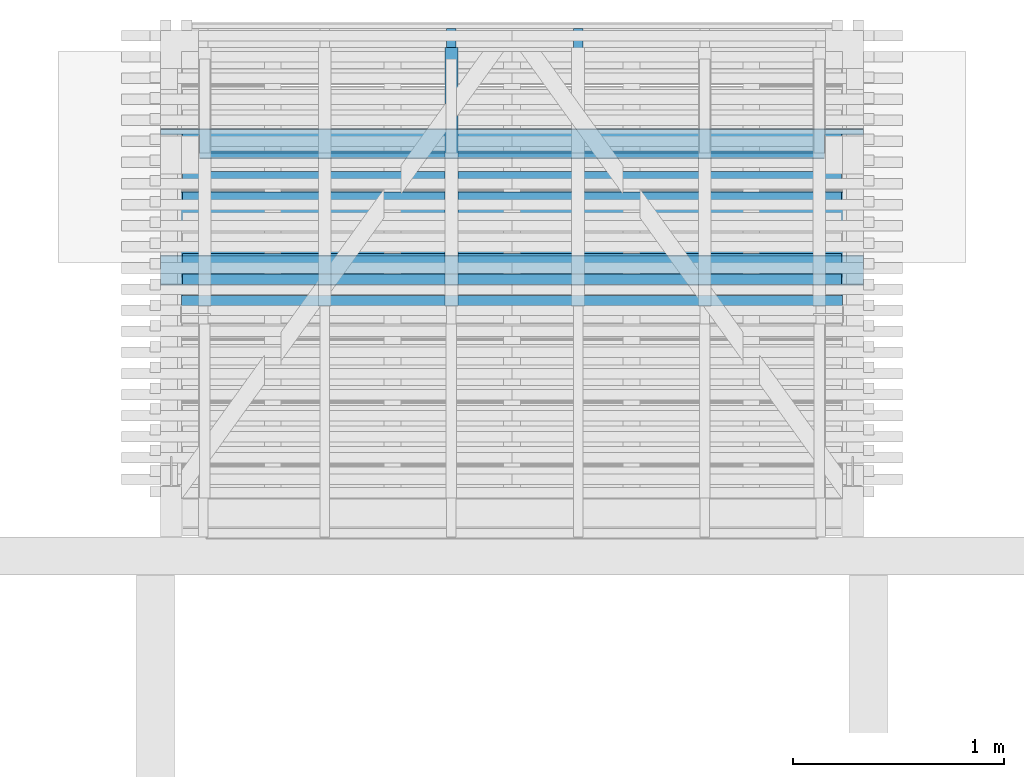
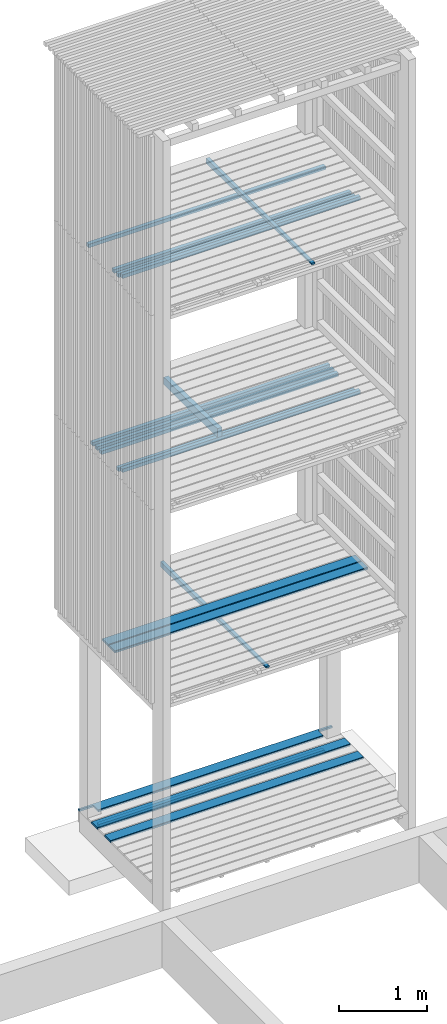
# One storey, part 150 of 182: 18 beams.
"""IFC2X3 building model written with IfcOpenShell, lengths in metres."""

from ifc_helpers import new_model, si_unit, frame, origin, place, context, project, spatial, faceted_brep, element, save


model = new_model("IFC2X3")

# Units and contexts
model_context = context("Model", 3, precision=1e-06, world=origin())
ifc_project = project(units=[si_unit("LENGTHUNIT", "METRE"), si_unit("PLANEANGLEUNIT", "RADIAN")], contexts=[model_context])

# Site, building, storey
site = spatial("IfcSite", under=ifc_project, CompositionType="ELEMENT")
building = spatial("IfcBuilding", under=site, CompositionType="ELEMENT")
storey = spatial("IfcBuildingStorey", under=building, Name="vs", CompositionType="ELEMENT", Elevation=-0.85)

# Beams
placement = place(None, origin())
beam_1_placement = place(placement, frame((36.38499999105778, 11.634577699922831, 2.733499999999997), z_axis=(0.0, 0.0, 1.0), x_axis=(-1.0, -1e-14, 0.0)))
element("IfcBeam", 1, at=beam_1_placement, inside=storey, Name="Caillebotis", context=model_context, shape_type="Brep", body=[
    faceted_brep([(3.329999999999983, -0.072500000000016, -0.0135), (3.329999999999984, 0.072499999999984, -0.0135), (3.329999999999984, 0.072499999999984, 0.0085), (3.329999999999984, 0.067499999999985, 0.0135), (3.329999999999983, -0.067500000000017, 0.0135), (3.329999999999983, -0.072500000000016, 0.008500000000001), (-1.5e-14, -0.072499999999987, 0.008500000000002), (-1.5e-14, -0.067499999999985, 0.0135), (-1.4e-14, 0.067500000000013, 0.0135), (-1.4e-14, 0.072500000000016, 0.0085), (-1.4e-14, 0.072500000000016, -0.0135), (-1.5e-14, -0.072499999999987, -0.0135), (3.329999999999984, 0.072499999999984, 0.0085), (3.329999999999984, 0.072499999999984, -0.0135), (-1.4e-14, 0.072500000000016, -0.0135), (-1.4e-14, 0.072500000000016, 0.0085), (3.329999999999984, 0.067499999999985, 0.0135), (3.329999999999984, 0.072499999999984, 0.0085), (-1.4e-14, 0.072500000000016, 0.0085), (-1.4e-14, 0.067500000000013, 0.0135), (3.329999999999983, -0.067500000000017, 0.0135), (3.329999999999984, 0.067499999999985, 0.0135), (-1.4e-14, 0.067500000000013, 0.0135), (-1.5e-14, -0.067499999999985, 0.0135), (3.329999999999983, -0.072500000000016, 0.008500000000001), (3.329999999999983, -0.067500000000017, 0.0135), (-1.5e-14, -0.067499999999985, 0.0135), (-1.5e-14, -0.072499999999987, 0.008500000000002), (3.329999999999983, -0.072500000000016, -0.0135), (3.329999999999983, -0.072500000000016, 0.008500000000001), (-1.5e-14, -0.072499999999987, 0.008500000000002), (-1.5e-14, -0.072499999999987, -0.0135), (-1.4e-14, 0.072500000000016, -0.0135), (3.329999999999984, 0.072499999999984, -0.0135), (3.329999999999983, -0.072500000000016, -0.0135), (-1.5e-14, -0.072499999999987, -0.0135)], [[[0, 1, 2, 3, 4, 5]], [[6, 7, 8, 9, 10, 11]], [[12, 13, 14, 15]], [[16, 17, 18, 19]], [[20, 21, 22, 23]], [[24, 25, 26, 27]], [[28, 29, 30, 31]], [[32, 33, 34, 35]]]),
])
beam_2_placement = place(placement, frame((34.432999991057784, 11.565077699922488, 5.304249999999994), z_axis=(0.0, 0.0, 1.0), x_axis=(1.2e-14, 1.0, 0.0)))
element("IfcBeam", 2, at=beam_2_placement, inside=storey, Name="Solive", context=model_context, shape_type="Brep", body=[
    faceted_brep([(0.0, -0.030000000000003, -0.061849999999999), (1.225000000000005, -0.029999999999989, -0.061849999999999), (1.225000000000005, -0.029999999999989, 0.03735), (0.0, -0.030000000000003, 0.06185), (-1e-15, 0.029999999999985, -0.061849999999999), (1.225000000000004, 0.029999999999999, -0.061849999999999), (1.225000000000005, -0.029999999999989, -0.061849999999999), (0.0, -0.030000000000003, -0.061849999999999), (-1e-15, 0.029999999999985, 0.061850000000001), (-1e-15, 0.029999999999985, -0.061849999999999), (0.0, -0.030000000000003, -0.061849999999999), (0.0, -0.030000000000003, 0.06185), (1.225000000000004, 0.029999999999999, -0.061849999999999), (-1e-15, 0.029999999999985, -0.061849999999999), (-1e-15, 0.029999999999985, 0.061850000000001), (1.225000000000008, 0.029999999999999, 0.03735), (1.225000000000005, -0.029999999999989, 0.03735), (1.225000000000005, -0.029999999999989, -0.061849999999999), (1.225000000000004, 0.029999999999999, -0.061849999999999), (1.225000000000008, 0.029999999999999, 0.03735), (0.0, -0.030000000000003, 0.06185), (1.225000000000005, -0.029999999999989, 0.03735), (1.225000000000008, 0.029999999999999, 0.03735), (-1e-15, 0.029999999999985, 0.061850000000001)], [[[0, 1, 2, 3]], [[4, 5, 6, 7]], [[8, 9, 10, 11]], [[12, 13, 14, 15]], [[16, 17, 18, 19]], [[20, 21, 22, 23]]]),
])
beam_3_placement = place(placement, frame((36.27999999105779, 11.789244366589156, 7.86739999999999), z_axis=(0.0, 0.0, 1.0), x_axis=(-1.0, 0.0, 0.0)))
element("IfcBeam", 3, at=beam_3_placement, inside=storey, Name="Bardage", context=model_context, shape_type="Brep", body=[
    faceted_brep([(3.120000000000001, 0.025000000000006, -0.024999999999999), (3.120000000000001, 0.025000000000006, 0.025000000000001), (3.120000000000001, -0.024999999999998, 0.025000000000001), (3.120000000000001, -0.024999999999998, -0.024999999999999), (-3e-15, -0.024999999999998, -0.024999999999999), (-3e-15, -0.024999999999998, 0.025000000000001), (-3e-15, 0.025000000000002, 0.025000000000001), (-3e-15, 0.025000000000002, -0.024999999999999), (-3e-15, 0.025000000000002, -0.024999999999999), (-3e-15, 0.025000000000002, 0.025000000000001), (3.120000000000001, 0.025000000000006, 0.025000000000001), (3.120000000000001, 0.025000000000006, -0.024999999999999), (-3e-15, 0.025000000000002, 0.025000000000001), (-3e-15, -0.024999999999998, 0.025000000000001), (3.120000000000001, -0.024999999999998, 0.025000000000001), (3.120000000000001, 0.025000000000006, 0.025000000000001), (-3e-15, -0.024999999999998, 0.025000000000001), (-3e-15, -0.024999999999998, -0.024999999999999), (3.120000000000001, -0.024999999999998, -0.024999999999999), (3.120000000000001, -0.024999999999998, 0.025000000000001), (-3e-15, -0.024999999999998, -0.024999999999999), (-3e-15, 0.025000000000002, -0.024999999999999), (3.120000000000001, 0.025000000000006, -0.024999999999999), (3.120000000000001, -0.024999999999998, -0.024999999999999)], [[[0, 1, 2, 3]], [[4, 5, 6, 7]], [[8, 9, 10, 11]], [[12, 13, 14, 15]], [[16, 17, 18, 19]], [[20, 21, 22, 23]]]),
])
beam_4_placement = place(placement, frame((36.38499999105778, 12.334577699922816, 0.033500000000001), z_axis=(0.0, 0.0, 1.0), x_axis=(-1.0, 0.0, 0.0)))
element("IfcBeam", 4, at=beam_4_placement, inside=storey, Name="Caillebotis", context=model_context, shape_type="Brep", body=[
    faceted_brep([(0.0, -0.072500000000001, -0.013500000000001), (0.0, -0.072500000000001, 0.008500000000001), (0.0, -0.067500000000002, 0.0135), (0.0, -0.040499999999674, 0.0135), (0.0, -0.040499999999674, -0.013500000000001), (3.329999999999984, -0.067500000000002, 0.0135), (3.329999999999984, -0.040499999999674, 0.0135), (3.144999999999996, -0.040499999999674, 0.0135), (3.144999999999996, 0.067500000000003, 0.0135), (0.184999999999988, 0.067499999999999, 0.0135), (0.184999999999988, -0.040499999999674, 0.0135), (0.0, -0.040499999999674, 0.0135), (0.0, -0.067500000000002, 0.0135), (0.184999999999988, -0.040499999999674, 0.0135), (0.184999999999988, 0.067499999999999, 0.0135), (0.184999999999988, 0.072499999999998, 0.0085), (0.184999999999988, 0.072499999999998, -0.013500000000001), (0.184999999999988, -0.040499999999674, -0.013500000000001), (3.329999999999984, -0.072499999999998, 0.008500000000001), (3.329999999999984, -0.072499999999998, -0.013500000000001), (3.329999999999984, -0.040499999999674, -0.013500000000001), (3.329999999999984, -0.040499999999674, 0.0135), (3.329999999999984, -0.067500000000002, 0.0135), (3.144999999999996, 0.072499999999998, 0.0085), (3.144999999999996, 0.067500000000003, 0.0135), (3.144999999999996, -0.040499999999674, 0.0135), (3.144999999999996, -0.040499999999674, -0.013500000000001), (3.144999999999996, 0.072500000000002, -0.013500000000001), (3.144999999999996, -0.040499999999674, -0.013500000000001), (3.144999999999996, -0.040499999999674, 0.0135), (3.329999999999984, -0.040499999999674, 0.0135), (3.329999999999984, -0.040499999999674, -0.013500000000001), (0.184999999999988, 0.072499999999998, -0.013500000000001), (0.184999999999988, 0.072499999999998, 0.0085), (3.144999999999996, 0.072499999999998, 0.0085), (3.144999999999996, 0.072500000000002, -0.013500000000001), (0.184999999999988, 0.072499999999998, 0.0085), (0.184999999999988, 0.067499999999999, 0.0135), (3.144999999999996, 0.067500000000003, 0.0135), (3.144999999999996, 0.072499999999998, 0.0085), (3.329999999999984, -0.072499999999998, 0.008500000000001), (3.329999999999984, -0.067500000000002, 0.0135), (0.0, -0.067500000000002, 0.0135), (0.0, -0.072500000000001, 0.008500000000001), (3.329999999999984, -0.072499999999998, -0.013500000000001), (3.329999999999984, -0.072499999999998, 0.008500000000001), (0.0, -0.072500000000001, 0.008500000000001), (0.0, -0.072500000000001, -0.013500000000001), (0.184999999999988, -0.040499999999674, -0.013500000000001), (0.184999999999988, 0.072499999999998, -0.013500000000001), (3.144999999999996, 0.072500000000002, -0.013500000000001), (3.144999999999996, -0.040499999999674, -0.013500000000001), (3.329999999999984, -0.040499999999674, -0.013500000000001), (3.329999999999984, -0.072499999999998, -0.013500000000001), (0.0, -0.072500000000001, -0.013500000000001), (0.0, -0.040499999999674, -0.013500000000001), (0.0, -0.040499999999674, 0.0135), (0.184999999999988, -0.040499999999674, 0.0135), (0.184999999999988, -0.040499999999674, -0.013500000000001), (0.0, -0.040499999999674, -0.013500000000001)], [[[0, 1, 2, 3, 4]], [[5, 6, 7, 8, 9, 10, 11, 12]], [[13, 14, 15, 16, 17]], [[18, 19, 20, 21, 22]], [[23, 24, 25, 26, 27]], [[28, 29, 30, 31]], [[32, 33, 34, 35]], [[36, 37, 38, 39]], [[40, 41, 42, 43]], [[44, 45, 46, 47]], [[48, 49, 50, 51, 52, 53, 54, 55]], [[56, 57, 58, 59]]]),
])
beam_5_placement = place(placement, frame((36.27999999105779, 11.69216103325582, 7.86739999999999), z_axis=(0.0, 0.0, 1.0), x_axis=(-1.0, 0.0, 0.0)))
element("IfcBeam", 5, at=beam_5_placement, inside=storey, Name="Bardage", context=model_context, shape_type="Brep", body=[
    faceted_brep([(3.120000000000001, 0.024999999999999, -0.024999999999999), (3.120000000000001, 0.024999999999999, 0.025000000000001), (3.120000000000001, -0.024999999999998, 0.025000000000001), (3.120000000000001, -0.024999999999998, -0.024999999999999), (-3e-15, -0.025000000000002, -0.024999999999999), (-3e-15, -0.025000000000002, 0.025000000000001), (-3e-15, 0.024999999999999, 0.025000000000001), (-3e-15, 0.024999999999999, -0.024999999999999), (-3e-15, 0.024999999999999, -0.024999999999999), (-3e-15, 0.024999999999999, 0.025000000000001), (3.120000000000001, 0.024999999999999, 0.025000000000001), (3.120000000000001, 0.024999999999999, -0.024999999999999), (-3e-15, 0.024999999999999, 0.025000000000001), (-3e-15, -0.025000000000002, 0.025000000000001), (3.120000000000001, -0.024999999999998, 0.025000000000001), (3.120000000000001, 0.024999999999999, 0.025000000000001), (-3e-15, -0.025000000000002, 0.025000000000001), (-3e-15, -0.025000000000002, -0.024999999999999), (3.120000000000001, -0.024999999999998, -0.024999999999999), (3.120000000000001, -0.024999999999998, 0.025000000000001), (-3e-15, -0.025000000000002, -0.024999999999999), (-3e-15, 0.024999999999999, -0.024999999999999), (3.120000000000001, 0.024999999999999, -0.024999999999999), (3.120000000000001, -0.024999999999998, -0.024999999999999)], [[[0, 1, 2, 3]], [[4, 5, 6, 7]], [[8, 9, 10, 11]], [[12, 13, 14, 15]], [[16, 17, 18, 19]], [[20, 21, 22, 23]]]),
])
beam_6_placement = place(placement, frame((36.38499999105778, 12.034577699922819, 0.033500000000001), z_axis=(0.0, 0.0, 1.0), x_axis=(-1.0, -1e-15, 0.0)))
element("IfcBeam", 6, at=beam_6_placement, inside=storey, Name="Caillebotis", context=model_context, shape_type="Brep", body=[
    faceted_brep([(3.329999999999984, -0.067499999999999, 0.0135), (3.329999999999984, -0.072500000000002, 0.008500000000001), (3.329999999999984, -0.072500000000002, -0.013500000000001), (3.329999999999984, 0.072500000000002, -0.013500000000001), (3.329999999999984, 0.072500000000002, 0.0085), (3.329999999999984, 0.067499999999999, 0.0135), (0.0, 0.067500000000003, 0.0135), (0.0, 0.072500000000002, 0.0085), (0.0, 0.072500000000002, -0.013500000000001), (0.0, -0.072499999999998, -0.013500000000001), (0.0, -0.072499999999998, 0.008500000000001), (0.0, -0.067499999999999, 0.0135), (3.329999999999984, -0.072500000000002, -0.013500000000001), (3.329999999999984, -0.072500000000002, 0.008500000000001), (0.0, -0.072499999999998, 0.008500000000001), (0.0, -0.072499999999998, -0.013500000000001), (3.329999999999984, 0.072500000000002, -0.013500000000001), (3.329999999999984, -0.072500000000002, -0.013500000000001), (0.0, -0.072499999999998, -0.013500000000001), (0.0, 0.072500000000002, -0.013500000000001), (3.329999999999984, 0.072500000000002, 0.0085), (3.329999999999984, 0.072500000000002, -0.013500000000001), (0.0, 0.072500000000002, -0.013500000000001), (0.0, 0.072500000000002, 0.0085), (3.329999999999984, 0.067499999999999, 0.0135), (3.329999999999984, 0.072500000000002, 0.0085), (0.0, 0.072500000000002, 0.0085), (0.0, 0.067500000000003, 0.0135), (3.329999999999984, -0.067499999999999, 0.0135), (3.329999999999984, 0.067499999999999, 0.0135), (0.0, 0.067500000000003, 0.0135), (0.0, -0.067499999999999, 0.0135), (0.0, -0.072499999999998, 0.008500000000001), (3.329999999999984, -0.072500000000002, 0.008500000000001), (3.329999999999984, -0.067499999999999, 0.0135), (0.0, -0.067499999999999, 0.0135)], [[[0, 1, 2, 3, 4, 5]], [[6, 7, 8, 9, 10, 11]], [[12, 13, 14, 15]], [[16, 17, 18, 19]], [[20, 21, 22, 23]], [[24, 25, 26, 27]], [[28, 29, 30, 31]], [[32, 33, 34, 35]]]),
])
beam_7_placement = place(placement, frame((33.154999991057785, 11.590077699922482, 5.217399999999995), z_axis=(0.0, 0.0, 1.0), x_axis=(1.0, 0.0, 0.0)))
element("IfcBeam", 7, at=beam_7_placement, inside=storey, Name="Ligneul", context=model_context, shape_type="Brep", body=[
    faceted_brep([(4e-15, -0.024999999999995, 0.024999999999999), (4e-15, -0.024999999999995, -0.025), (3.129999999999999, -0.024999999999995, -0.025), (3.129999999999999, -0.024999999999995, 0.024999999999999), (4e-15, 0.025000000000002, 0.024999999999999), (4e-15, -0.024999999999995, 0.024999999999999), (3.129999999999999, -0.024999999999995, 0.024999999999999), (3.129999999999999, 0.025000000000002, 0.024999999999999), (4e-15, -0.024999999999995, 0.024999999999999), (4e-15, 0.025000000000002, 0.024999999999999), (4e-15, 0.025000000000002, -0.025), (4e-15, -0.024999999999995, -0.025), (4e-15, 0.025000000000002, -0.025), (4e-15, 0.025000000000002, 0.024999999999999), (3.129999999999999, 0.025000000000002, 0.024999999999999), (3.129999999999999, 0.025000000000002, -0.025), (3.129999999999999, -0.024999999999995, -0.025), (4e-15, -0.024999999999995, -0.025), (4e-15, 0.025000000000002, -0.025), (3.129999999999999, 0.025000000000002, -0.025), (3.129999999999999, -0.024999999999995, 0.024999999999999), (3.129999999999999, -0.024999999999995, -0.025), (3.129999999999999, 0.025000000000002, -0.025), (3.129999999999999, 0.025000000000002, 0.024999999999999)], [[[0, 1, 2, 3]], [[4, 5, 6, 7]], [[8, 9, 10, 11]], [[12, 13, 14, 15]], [[16, 17, 18, 19]], [[20, 21, 22, 23]]]),
])
beam_8_placement = place(placement, frame((36.38499999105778, 11.78457769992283, 2.733499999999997), z_axis=(0.0, 0.0, 1.0), x_axis=(-1.0, -8e-15, 0.0)))
element("IfcBeam", 8, at=beam_8_placement, inside=storey, Name="Caillebotis", context=model_context, shape_type="Brep", body=[
    faceted_brep([(3.329999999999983, -0.072500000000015, -0.0135), (3.329999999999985, 0.072499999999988, -0.0135), (3.329999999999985, 0.072499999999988, 0.0085), (3.329999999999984, 0.067499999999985, 0.0135), (3.329999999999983, -0.067500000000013, 0.0135), (3.329999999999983, -0.072500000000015, 0.008500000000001), (-1.5e-14, -0.072499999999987, 0.008500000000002), (-1.5e-14, -0.067499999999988, 0.0135), (-1.4e-14, 0.067500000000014, 0.013500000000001), (-1.4e-14, 0.072500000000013, 0.0085), (-1.4e-14, 0.072500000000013, -0.0135), (-1.5e-14, -0.072499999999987, -0.0135), (3.329999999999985, 0.072499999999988, 0.0085), (3.329999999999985, 0.072499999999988, -0.0135), (-1.4e-14, 0.072500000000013, -0.0135), (-1.4e-14, 0.072500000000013, 0.0085), (3.329999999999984, 0.067499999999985, 0.0135), (3.329999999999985, 0.072499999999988, 0.0085), (-1.4e-14, 0.072500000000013, 0.0085), (-1.4e-14, 0.067500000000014, 0.013500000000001), (3.329999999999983, -0.067500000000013, 0.0135), (3.329999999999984, 0.067499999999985, 0.0135), (-1.4e-14, 0.067500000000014, 0.013500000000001), (-1.5e-14, -0.067499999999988, 0.0135), (3.329999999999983, -0.072500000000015, 0.008500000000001), (3.329999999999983, -0.067500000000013, 0.0135), (-1.5e-14, -0.067499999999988, 0.0135), (-1.5e-14, -0.072499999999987, 0.008500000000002), (3.329999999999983, -0.072500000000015, -0.0135), (3.329999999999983, -0.072500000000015, 0.008500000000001), (-1.5e-14, -0.072499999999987, 0.008500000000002), (-1.5e-14, -0.072499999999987, -0.0135), (-1.4e-14, 0.072500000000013, -0.0135), (3.329999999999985, 0.072499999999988, -0.0135), (3.329999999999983, -0.072500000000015, -0.0135), (-1.5e-14, -0.072499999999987, -0.0135)], [[[0, 1, 2, 3, 4, 5]], [[6, 7, 8, 9, 10, 11]], [[12, 13, 14, 15]], [[16, 17, 18, 19]], [[20, 21, 22, 23]], [[24, 25, 26, 27]], [[28, 29, 30, 31]], [[32, 33, 34, 35]]]),
])
beam_9_placement = place(placement, frame((36.27999999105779, 12.274661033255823, 5.167399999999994), z_axis=(0.0, 0.0, 1.0), x_axis=(-1.0, 0.0, 0.0)))
element("IfcBeam", 9, at=beam_9_placement, inside=storey, Name="Bardage", context=model_context, shape_type="Brep", body=[
    faceted_brep([(3.120000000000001, 0.024999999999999, 0.024999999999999), (3.120000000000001, -0.024999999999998, 0.024999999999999), (3.120000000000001, -0.024999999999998, -0.024999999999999), (3.120000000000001, 0.024999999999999, -0.024999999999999), (-3e-15, -0.025000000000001, 0.024999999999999), (-3e-15, 0.024999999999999, 0.024999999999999), (-3e-15, 0.024999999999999, -0.024999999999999), (-3e-15, -0.025000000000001, -0.024999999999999), (3.120000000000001, 0.024999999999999, -0.024999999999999), (3.120000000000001, -0.024999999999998, -0.024999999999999), (-3e-15, -0.025000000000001, -0.024999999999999), (-3e-15, 0.024999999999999, -0.024999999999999), (-3e-15, -0.025000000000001, -0.024999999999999), (3.120000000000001, -0.024999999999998, -0.024999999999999), (3.120000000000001, -0.024999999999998, 0.024999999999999), (-3e-15, -0.025000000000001, 0.024999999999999), (-3e-15, -0.025000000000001, 0.024999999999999), (3.120000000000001, -0.024999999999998, 0.024999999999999), (3.120000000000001, 0.024999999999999, 0.024999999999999), (-3e-15, 0.024999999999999, 0.024999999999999), (-3e-15, 0.024999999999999, 0.024999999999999), (3.120000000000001, 0.024999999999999, 0.024999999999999), (3.120000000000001, 0.024999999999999, -0.024999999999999), (-3e-15, 0.024999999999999, -0.024999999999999)], [[[0, 1, 2, 3]], [[4, 5, 6, 7]], [[8, 9, 10, 11]], [[12, 13, 14, 15]], [[16, 17, 18, 19]], [[20, 21, 22, 23]]]),
])
beam_10_placement = place(placement, frame((33.23499999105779, 12.26507769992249, -0.164999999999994), z_axis=(0.0, 0.0, 1.0), x_axis=(1.0, 0.0, 0.0)))
element("IfcBeam", 10, at=beam_10_placement, inside=storey, Name="Ligneul", context=model_context, shape_type="Brep", body=[
    faceted_brep([(2e-15, -0.024999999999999, 0.025), (2e-15, -0.024999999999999, -0.025), (2.970000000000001, -0.024999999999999, -0.025), (2.970000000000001, -0.024999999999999, 0.025), (2e-15, 0.024999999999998, 0.025), (2e-15, -0.024999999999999, 0.025), (2.970000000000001, -0.024999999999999, 0.025), (2.970000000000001, 0.025000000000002, 0.025), (2e-15, -0.024999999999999, 0.025), (2e-15, 0.024999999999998, 0.025), (2e-15, 0.024999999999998, -0.025), (2e-15, -0.024999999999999, -0.025), (2e-15, 0.024999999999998, -0.025), (2e-15, 0.024999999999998, 0.025), (2.970000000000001, 0.025000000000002, 0.025), (2.970000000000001, 0.025000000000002, -0.025), (2.970000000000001, -0.024999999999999, -0.025), (2e-15, -0.024999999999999, -0.025), (2e-15, 0.024999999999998, -0.025), (2.970000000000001, 0.025000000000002, -0.025), (2.970000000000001, -0.024999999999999, 0.025), (2.970000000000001, -0.024999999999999, -0.025), (2.970000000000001, 0.025000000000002, -0.025), (2.970000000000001, 0.025000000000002, 0.025)], [[[0, 1, 2, 3]], [[4, 5, 6, 7]], [[8, 9, 10, 11]], [[12, 13, 14, 15]], [[16, 17, 18, 19]], [[20, 21, 22, 23]]]),
])
beam_11_placement = place(placement, frame((36.27999999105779, 12.177577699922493, 5.167399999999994), z_axis=(0.0, 0.0, 1.0), x_axis=(-1.0, -1e-15, 0.0)))
element("IfcBeam", 11, at=beam_11_placement, inside=storey, Name="Bardage", context=model_context, shape_type="Brep", body=[
    faceted_brep([(3.120000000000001, 0.024999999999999, 0.024999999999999), (3.120000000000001, -0.025000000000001, 0.024999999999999), (3.120000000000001, -0.025000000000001, -0.024999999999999), (3.120000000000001, 0.024999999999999, -0.024999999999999), (-3e-15, -0.024999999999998, 0.024999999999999), (-3e-15, 0.025000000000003, 0.024999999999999), (-3e-15, 0.025000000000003, -0.024999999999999), (-3e-15, -0.024999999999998, -0.024999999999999), (-3e-15, -0.024999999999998, -0.024999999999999), (-3e-15, 0.025000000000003, -0.024999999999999), (3.120000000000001, 0.024999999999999, -0.024999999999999), (3.120000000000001, -0.025000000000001, -0.024999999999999), (-3e-15, -0.024999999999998, -0.024999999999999), (3.120000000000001, -0.025000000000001, -0.024999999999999), (3.120000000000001, -0.025000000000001, 0.024999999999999), (-3e-15, -0.024999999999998, 0.024999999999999), (3.120000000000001, 0.024999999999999, 0.024999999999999), (3.120000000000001, 0.024999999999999, -0.024999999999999), (-3e-15, 0.025000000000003, -0.024999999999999), (-3e-15, 0.025000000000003, 0.024999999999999), (3.120000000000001, 0.024999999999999, 0.024999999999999), (-3e-15, 0.025000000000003, 0.024999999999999), (-3e-15, -0.024999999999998, 0.024999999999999), (3.120000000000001, -0.025000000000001, 0.024999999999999)], [[[0, 1, 2, 3]], [[4, 5, 6, 7]], [[8, 9, 10, 11]], [[12, 13, 14, 15]], [[16, 17, 18, 19]], [[20, 21, 22, 23]]]),
])
beam_12_placement = place(placement, frame((36.27999999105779, 12.371744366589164, 7.86739999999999), z_axis=(0.0, 0.0, 1.0), x_axis=(-1.0, 0.0, 0.0)))
element("IfcBeam", 12, at=beam_12_placement, inside=storey, Name="Bardage", context=model_context, shape_type="Brep", body=[
    faceted_brep([(-3e-15, -0.024999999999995, 0.025000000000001), (-3e-15, 0.025000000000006, 0.025000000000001), (-3e-15, 0.025000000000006, -0.024999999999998), (-3e-15, -0.024999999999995, -0.024999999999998), (3.119999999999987, 0.025000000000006, 0.025000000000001), (3.120000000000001, -0.024999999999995, 0.025000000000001), (3.120000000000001, -0.024999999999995, -0.024999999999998), (3.119999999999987, 0.025000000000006, -0.024999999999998), (3.120000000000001, -0.024999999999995, 0.025000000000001), (3.119999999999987, 0.025000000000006, 0.025000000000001), (-3e-15, 0.025000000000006, 0.025000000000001), (-3e-15, -0.024999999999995, 0.025000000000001), (-3e-15, 0.025000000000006, 0.025000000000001), (3.119999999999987, 0.025000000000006, 0.025000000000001), (3.119999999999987, 0.025000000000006, -0.024999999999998), (-3e-15, 0.025000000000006, -0.024999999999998), (-3e-15, -0.024999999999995, -0.024999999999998), (-3e-15, 0.025000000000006, -0.024999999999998), (3.119999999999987, 0.025000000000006, -0.024999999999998), (3.120000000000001, -0.024999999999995, -0.024999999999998), (3.120000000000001, -0.024999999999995, -0.024999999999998), (3.120000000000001, -0.024999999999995, 0.025000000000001), (-3e-15, -0.024999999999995, 0.025000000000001), (-3e-15, -0.024999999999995, -0.024999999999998)], [[[0, 1, 2, 3]], [[4, 5, 6, 7]], [[8, 9, 10, 11]], [[12, 13, 14, 15]], [[16, 17, 18, 19]], [[20, 21, 22, 23]]]),
])
beam_13_placement = place(placement, frame((36.27999999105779, 11.69216103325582, 5.167399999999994), z_axis=(0.0, 0.0, 1.0), x_axis=(-1.0, 0.0, 0.0)))
element("IfcBeam", 13, at=beam_13_placement, inside=storey, Name="Bardage", context=model_context, shape_type="Brep", body=[
    faceted_brep([(3.120000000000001, 0.024999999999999, -0.025), (3.120000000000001, 0.024999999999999, 0.025), (3.120000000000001, -0.024999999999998, 0.025), (3.120000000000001, -0.024999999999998, -0.025), (-3e-15, -0.025000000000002, -0.025), (-3e-15, -0.025000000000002, 0.025), (-3e-15, 0.024999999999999, 0.025), (-3e-15, 0.024999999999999, -0.025), (-3e-15, 0.024999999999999, -0.025), (-3e-15, 0.024999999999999, 0.025), (3.120000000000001, 0.024999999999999, 0.025), (3.120000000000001, 0.024999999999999, -0.025), (-3e-15, 0.024999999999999, 0.025), (-3e-15, -0.025000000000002, 0.025), (3.120000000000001, -0.024999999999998, 0.025), (3.120000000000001, 0.024999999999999, 0.025), (-3e-15, -0.025000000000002, 0.025), (-3e-15, -0.025000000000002, -0.025), (3.120000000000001, -0.024999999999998, -0.025), (3.120000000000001, -0.024999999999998, 0.025), (-3e-15, -0.025000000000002, -0.025), (-3e-15, 0.024999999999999, -0.025), (3.120000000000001, 0.024999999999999, -0.025), (3.120000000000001, -0.024999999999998, -0.025)], [[[0, 1, 2, 3]], [[4, 5, 6, 7]], [[8, 9, 10, 11]], [[12, 13, 14, 15]], [[16, 17, 18, 19]], [[20, 21, 22, 23]]]),
])
beam_14_placement = place(placement, frame((33.154999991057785, 11.590077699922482, 7.917399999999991), z_axis=(0.0, 0.0, 1.0), x_axis=(1.0, 0.0, 0.0)))
element("IfcBeam", 14, at=beam_14_placement, inside=storey, Name="Ligneul", context=model_context, shape_type="Brep", body=[
    faceted_brep([(4e-15, -0.024999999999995, 0.024999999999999), (4e-15, -0.024999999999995, -0.025000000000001), (3.129999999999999, -0.024999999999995, -0.025000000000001), (3.129999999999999, -0.024999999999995, 0.024999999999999), (4e-15, 0.025000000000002, 0.024999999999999), (4e-15, -0.024999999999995, 0.024999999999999), (3.129999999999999, -0.024999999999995, 0.024999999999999), (3.129999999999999, 0.025000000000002, 0.024999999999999), (4e-15, -0.024999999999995, 0.024999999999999), (4e-15, 0.025000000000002, 0.024999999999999), (4e-15, 0.025000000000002, -0.025000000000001), (4e-15, -0.024999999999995, -0.025000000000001), (4e-15, 0.025000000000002, -0.025000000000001), (4e-15, 0.025000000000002, 0.024999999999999), (3.129999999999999, 0.025000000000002, 0.024999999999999), (3.129999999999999, 0.025000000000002, -0.025000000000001), (3.129999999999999, -0.024999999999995, -0.025000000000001), (4e-15, -0.024999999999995, -0.025000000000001), (4e-15, 0.025000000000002, -0.025000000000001), (3.129999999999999, 0.025000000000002, -0.025000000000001), (3.129999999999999, -0.024999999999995, 0.024999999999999), (3.129999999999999, -0.024999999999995, -0.025000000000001), (3.129999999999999, 0.025000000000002, -0.025000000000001), (3.129999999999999, 0.025000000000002, 0.024999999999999)], [[[0, 1, 2, 3]], [[4, 5, 6, 7]], [[8, 9, 10, 11]], [[12, 13, 14, 15]], [[16, 17, 18, 19]], [[20, 21, 22, 23]]]),
])
beam_15_placement = place(placement, frame((35.03299999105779, 10.470077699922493, 8.084400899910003), z_axis=(0.0, 0.0, 1.0), x_axis=(0.0, 1.0, 0.0)))
element("IfcBeam", 15, at=beam_15_placement, inside=storey, Name="Calage", context=model_context, shape_type="Brep", body=[
    faceted_brep([(2.410000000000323, -0.022499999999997, -0.035599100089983), (0.0, -0.022499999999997, 0.012600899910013), (0.0, 0.02249999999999, 0.012600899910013), (2.410000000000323, 0.02249999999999, -0.035599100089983), (0.0, 0.02249999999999, 0.035599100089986), (0.0, 0.02249999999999, 0.012600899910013), (0.0, -0.022499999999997, 0.012600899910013), (0.0, -0.022499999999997, 0.035599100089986), (2.410000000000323, 0.02249999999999, -0.035599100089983), (0.0, 0.02249999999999, 0.012600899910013), (0.0, 0.02249999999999, 0.035599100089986), (2.410000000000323, 0.02249999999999, 0.035599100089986), (2.410000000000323, -0.022499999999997, 0.035599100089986), (0.0, -0.022499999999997, 0.035599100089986), (0.0, -0.022499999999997, 0.012600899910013), (2.410000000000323, -0.022499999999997, -0.035599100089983), (2.410000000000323, 0.02249999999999, 0.035599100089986), (0.0, 0.02249999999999, 0.035599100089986), (0.0, -0.022499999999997, 0.035599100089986), (2.410000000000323, -0.022499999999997, 0.035599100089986), (2.410000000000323, 0.02249999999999, -0.035599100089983), (2.410000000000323, 0.02249999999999, 0.035599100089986), (2.410000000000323, -0.022499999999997, 0.035599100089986), (2.410000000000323, -0.022499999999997, -0.035599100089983)], [[[0, 1, 2, 3]], [[4, 5, 6, 7]], [[8, 9, 10, 11]], [[12, 13, 14, 15]], [[16, 17, 18, 19]], [[20, 21, 22, 23]]]),
])
beam_16_placement = place(placement, frame((36.38499999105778, 11.734577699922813, 0.033500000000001), z_axis=(0.0, 0.0, 1.0), x_axis=(-1.0, 0.0, 0.0)))
element("IfcBeam", 16, at=beam_16_placement, inside=storey, Name="Caillebotis", context=model_context, shape_type="Brep", body=[
    faceted_brep([(3.329999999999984, -0.067500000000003, 0.0135), (3.329999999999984, -0.072499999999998, 0.008500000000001), (3.329999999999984, -0.072499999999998, -0.013500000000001), (3.329999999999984, 0.072499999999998, -0.013500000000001), (3.329999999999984, 0.072499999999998, 0.0085), (3.329999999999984, 0.067500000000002, 0.0135), (0.0, 0.067499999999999, 0.0135), (0.0, 0.072499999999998, 0.0085), (0.0, 0.072499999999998, -0.013500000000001), (0.0, -0.072500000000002, -0.013500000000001), (0.0, -0.072500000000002, 0.008500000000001), (0.0, -0.067500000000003, 0.0135), (3.329999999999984, -0.072499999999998, -0.013500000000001), (3.329999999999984, -0.072499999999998, 0.008500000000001), (0.0, -0.072500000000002, 0.008500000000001), (0.0, -0.072500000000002, -0.013500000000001), (3.329999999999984, 0.072499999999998, -0.013500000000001), (3.329999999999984, -0.072499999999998, -0.013500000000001), (0.0, -0.072500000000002, -0.013500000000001), (0.0, 0.072499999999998, -0.013500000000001), (3.329999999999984, 0.072499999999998, 0.0085), (3.329999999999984, 0.072499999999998, -0.013500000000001), (0.0, 0.072499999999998, -0.013500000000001), (0.0, 0.072499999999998, 0.0085), (3.329999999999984, 0.067500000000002, 0.0135), (3.329999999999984, 0.072499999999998, 0.0085), (0.0, 0.072499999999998, 0.0085), (0.0, 0.067499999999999, 0.0135), (3.329999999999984, -0.067500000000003, 0.0135), (3.329999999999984, 0.067500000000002, 0.0135), (0.0, 0.067499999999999, 0.0135), (0.0, -0.067500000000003, 0.0135), (0.0, -0.072500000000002, 0.008500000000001), (3.329999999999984, -0.072499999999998, 0.008500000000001), (3.329999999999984, -0.067500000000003, 0.0135), (0.0, -0.067500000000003, 0.0135)], [[[0, 1, 2, 3, 4, 5]], [[6, 7, 8, 9, 10, 11]], [[12, 13, 14, 15]], [[16, 17, 18, 19]], [[20, 21, 22, 23]], [[24, 25, 26, 27]], [[28, 29, 30, 31]], [[32, 33, 34, 35]]]),
])
beam_17_placement = place(placement, frame((36.27999999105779, 12.080494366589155, 5.167399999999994), z_axis=(0.0, 0.0, 1.0), x_axis=(-1.0, 0.0, 0.0)))
element("IfcBeam", 17, at=beam_17_placement, inside=storey, Name="Bardage", context=model_context, shape_type="Brep", body=[
    faceted_brep([(3.120000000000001, 0.024999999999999, -0.024999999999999), (3.120000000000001, 0.024999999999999, 0.024999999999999), (3.120000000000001, -0.024999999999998, 0.024999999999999), (3.120000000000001, -0.024999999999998, -0.024999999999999), (-3e-15, -0.025000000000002, -0.024999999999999), (-3e-15, -0.025000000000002, 0.024999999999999), (-3e-15, 0.024999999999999, 0.024999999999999), (-3e-15, 0.024999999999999, -0.024999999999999), (-3e-15, 0.024999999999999, -0.024999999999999), (-3e-15, 0.024999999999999, 0.024999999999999), (3.120000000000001, 0.024999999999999, 0.024999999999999), (3.120000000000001, 0.024999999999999, -0.024999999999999), (-3e-15, 0.024999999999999, 0.024999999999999), (-3e-15, -0.025000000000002, 0.024999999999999), (3.120000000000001, -0.024999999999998, 0.024999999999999), (3.120000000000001, 0.024999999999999, 0.024999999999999), (-3e-15, -0.025000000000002, 0.024999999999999), (-3e-15, -0.025000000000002, -0.024999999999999), (3.120000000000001, -0.024999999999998, -0.024999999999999), (3.120000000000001, -0.024999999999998, 0.024999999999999), (-3e-15, -0.025000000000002, -0.024999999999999), (-3e-15, 0.024999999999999, -0.024999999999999), (3.120000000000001, 0.024999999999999, -0.024999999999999), (3.120000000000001, -0.024999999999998, -0.024999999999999)], [[[0, 1, 2, 3]], [[4, 5, 6, 7]], [[8, 9, 10, 11]], [[12, 13, 14, 15]], [[16, 17, 18, 19]], [[20, 21, 22, 23]]]),
])
beam_18_placement = place(placement, frame((34.4329999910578, 10.470077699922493, 2.684400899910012), z_axis=(0.0, 0.0, 1.0), x_axis=(0.0, 1.0, 0.0)))
element("IfcBeam", 18, at=beam_18_placement, inside=storey, Name="Calage", context=model_context, shape_type="Brep", body=[
    faceted_brep([(2.410000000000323, -0.022499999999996, -0.035599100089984), (0.0, -0.022499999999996, 0.012600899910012), (0.0, 0.022500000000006, 0.012600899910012), (2.410000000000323, 0.022500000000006, -0.035599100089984), (0.0, 0.022500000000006, 0.035599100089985), (0.0, 0.022500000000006, 0.012600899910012), (0.0, -0.022499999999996, 0.012600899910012), (0.0, -0.022499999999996, 0.035599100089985), (2.410000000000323, 0.022500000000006, -0.035599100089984), (0.0, 0.022500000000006, 0.012600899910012), (0.0, 0.022500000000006, 0.035599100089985), (2.410000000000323, 0.022500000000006, 0.035599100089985), (2.410000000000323, -0.022499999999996, 0.035599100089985), (0.0, -0.022499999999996, 0.035599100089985), (0.0, -0.022499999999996, 0.012600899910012), (2.410000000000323, -0.022499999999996, -0.035599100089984), (2.410000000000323, 0.022500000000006, 0.035599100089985), (0.0, 0.022500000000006, 0.035599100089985), (0.0, -0.022499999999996, 0.035599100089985), (2.410000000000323, -0.022499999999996, 0.035599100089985), (2.410000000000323, 0.022500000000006, -0.035599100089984), (2.410000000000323, 0.022500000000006, 0.035599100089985), (2.410000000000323, -0.022499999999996, 0.035599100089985), (2.410000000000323, -0.022499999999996, -0.035599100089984)], [[[0, 1, 2, 3]], [[4, 5, 6, 7]], [[8, 9, 10, 11]], [[12, 13, 14, 15]], [[16, 17, 18, 19]], [[20, 21, 22, 23]]]),
])

save(model, "model.ifc")
